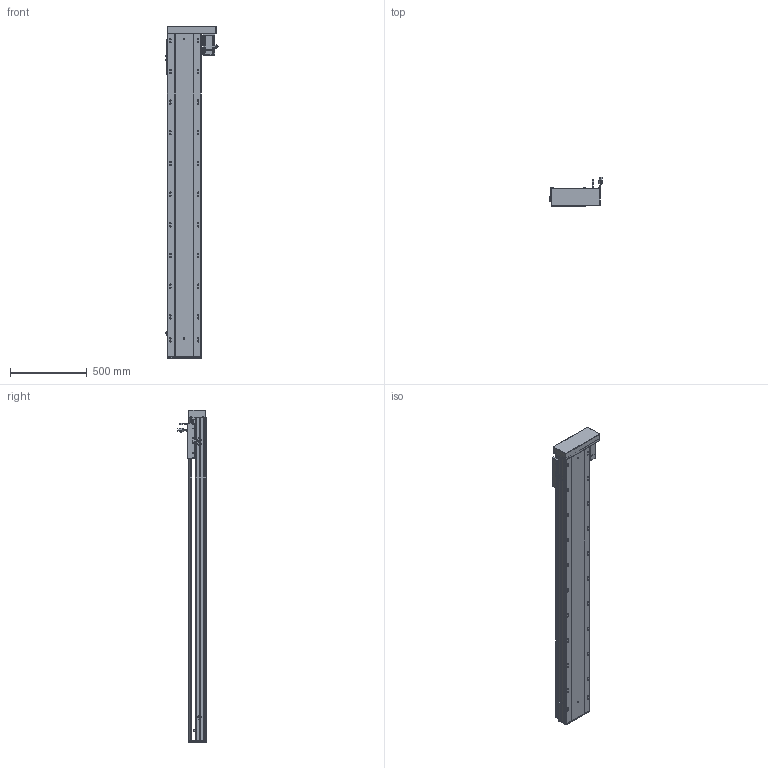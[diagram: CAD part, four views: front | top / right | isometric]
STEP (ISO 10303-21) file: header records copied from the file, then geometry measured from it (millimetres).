
FILE_DESCRIPTION (( 'STEP AP203' ), '1' );
FILE_NAME ('RY220-L2525-800-RK-邧嶺.SLDASM_1750.step', '2022-08-06T08:53:35', ( '' ), ( '' ), 'SwSTEP 2.0', 'SolidWorks 2016', '' );
FILE_SCHEMA (( 'CONFIG_CONTROL_DESIGN' ));
Length unit declared in the file: millimetre
Products named in the file (12): RY220蛌殏菁釱-800-邧嶺_1750; RY220-俋离672覜茼んえ; RY220-L2525-800-RK-邧嶺.SLDASM_1750; 滅袉蝶18-10; RY220-800-蛌殏奻裔啣_1750; RY220半封闭25-32螺母铝滑块; 怢湛750W_ECMA-CX0807ES; RY220左右折电机安装板; RY220酘衵殏萇儂欶; 覜茼ん672; 滅袉蝶18-15; RY220綴裔啣
Assembly tree (15 placements, depth 2):
  RY220-L2525-800-RK-邧嶺.SLDASM_1750
    RY220蛌殏菁釱-800-邧嶺_1750
    RY220-800-蛌殏奻裔啣_1750
    怢湛750W_ECMA-CX0807ES
    滅袉蝶18-10  x2
    RY220-俋离672覜茼んえ
    覜茼ん672  x3
    RY220綴裔啣
    RY220半封闭25-32螺母铝滑块
    滅袉蝶18-15  x2
    RY220左右折电机安装板
    RY220酘衵殏萇儂欶
Bounding box: 347.44 x 187.27 x 2164 mm (x, y, z)
Volume: 16591018.9 mm3; surface area: 5023294.1 mm2
Topology: 16 solids, 16 shells, 2327 faces, 6428 edges, 4037 vertices
Faces by surface type: cylinder 1079, plane 904, cone 274, bspline 44, sphere 16, torus 10
Entity records: 76883 total; most frequent: CARTESIAN_POINT 22117, ORIENTED_EDGE 11336, DIRECTION 10784, EDGE_CURVE 5668, AXIS2_PLACEMENT_3D 3829, VERTEX_POINT 3693, LINE 3126, VECTOR 3126
